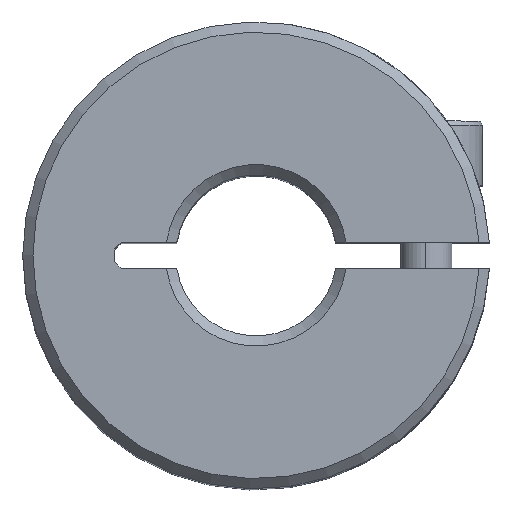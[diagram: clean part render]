
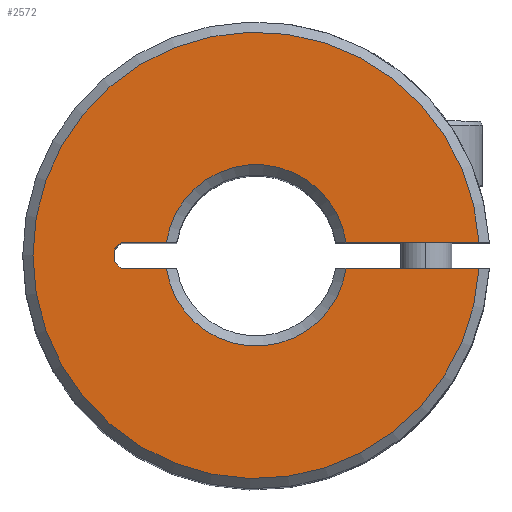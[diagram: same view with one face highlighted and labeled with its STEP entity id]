
A CAD part, top view. The second image highlights one B-rep face of the part: STEP entity #2572.
In plain terms, the highlighted planar face has unit normal (0, 0, 1).
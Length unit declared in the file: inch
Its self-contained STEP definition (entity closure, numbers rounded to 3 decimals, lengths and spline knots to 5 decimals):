
#594=DIRECTION('',(-0.707,0.707,0.));
#595=VECTOR('',#594,0.0221);
#596=CARTESIAN_POINT('',(-0.33024,-0.03125,0.88583));
#597=LINE('',#596,#595);
#598=DIRECTION('',(-1.,0.,0.));
#599=VECTOR('',#598,0.1106);
#600=CARTESIAN_POINT('',(-0.21964,-0.03125,0.88583));
#601=LINE('',#600,#599);
#602=CARTESIAN_POINT('',(0.,0.,0.88583));
#603=DIRECTION('',(0.,0.,-1.));
#604=DIRECTION('',(0.99,-0.141,0.));
#605=AXIS2_PLACEMENT_3D('',#602,#603,#604);
#607=DIRECTION('',(-1.,0.,0.));
#608=VECTOR('',#607,0.32533);
#609=CARTESIAN_POINT('',(0.54497,-0.03125,0.88583));
#610=LINE('',#609,#608);
#611=DIRECTION('',(1.,0.,0.));
#612=VECTOR('',#611,0.32533);
#613=CARTESIAN_POINT('',(0.21964,0.03125,0.88583));
#614=LINE('',#613,#612);
#615=CARTESIAN_POINT('',(0.,0.,0.88583));
#616=DIRECTION('',(0.,0.,-1.));
#617=DIRECTION('',(-0.99,0.141,0.));
#618=AXIS2_PLACEMENT_3D('',#615,#616,#617);
#620=DIRECTION('',(1.,0.,0.));
#621=VECTOR('',#620,0.1106);
#622=CARTESIAN_POINT('',(-0.33024,0.03125,0.88583));
#623=LINE('',#622,#621);
#624=DIRECTION('',(0.707,0.707,0.));
#625=VECTOR('',#624,0.0221);
#626=CARTESIAN_POINT('',(-0.34587,0.01563,0.88583));
#627=LINE('',#626,#625);
#628=DIRECTION('',(0.,1.,0.));
#629=VECTOR('',#628,0.03125);
#630=CARTESIAN_POINT('',(-0.34587,-0.01563,0.88583));
#631=LINE('',#630,#629);
#768=CARTESIAN_POINT('',(0.,0.,0.88583));
#769=DIRECTION('',(0.,0.,1.));
#770=DIRECTION('',(0.998,0.057,0.));
#771=AXIS2_PLACEMENT_3D('',#768,#769,#770);
#1870=CARTESIAN_POINT('',(-0.33024,-0.03125,0.88583));
#1871=CARTESIAN_POINT('',(-0.34587,-0.01563,0.88583));
#1872=VERTEX_POINT('',#1870);
#1873=VERTEX_POINT('',#1871);
#1874=CARTESIAN_POINT('',(-0.21964,-0.03125,0.88583));
#1875=VERTEX_POINT('',#1874);
#1876=CARTESIAN_POINT('',(0.21964,-0.03125,0.88583));
#1877=VERTEX_POINT('',#1876);
#1878=CARTESIAN_POINT('',(0.54497,-0.03125,0.88583));
#1879=VERTEX_POINT('',#1878);
#1880=CARTESIAN_POINT('',(0.21964,0.03125,0.88583));
#1881=CARTESIAN_POINT('',(0.54497,0.03125,0.88583));
#1882=VERTEX_POINT('',#1880);
#1883=VERTEX_POINT('',#1881);
#1884=CARTESIAN_POINT('',(-0.21964,0.03125,0.88583));
#1885=VERTEX_POINT('',#1884);
#1886=CARTESIAN_POINT('',(-0.33024,0.03125,0.88583));
#1887=VERTEX_POINT('',#1886);
#1888=CARTESIAN_POINT('',(-0.34587,0.01563,0.88583));
#1889=VERTEX_POINT('',#1888);
#2546=CARTESIAN_POINT('',(0.,0.,0.88583));
#2547=DIRECTION('',(0.,0.,1.));
#2548=DIRECTION('',(1.,0.,0.));
#2549=AXIS2_PLACEMENT_3D('',#2546,#2547,#2548);
#2550=PLANE('',#2549);
#2552=ORIENTED_EDGE('',*,*,#2551,.F.);
#2554=ORIENTED_EDGE('',*,*,#2553,.F.);
#2556=ORIENTED_EDGE('',*,*,#2555,.F.);
#2558=ORIENTED_EDGE('',*,*,#2557,.F.);
#2560=ORIENTED_EDGE('',*,*,#2559,.F.);
#2562=ORIENTED_EDGE('',*,*,#2561,.F.);
#2564=ORIENTED_EDGE('',*,*,#2563,.F.);
#2565=ORIENTED_EDGE('',*,*,#2525,.F.);
#2567=ORIENTED_EDGE('',*,*,#2566,.F.);
#2569=ORIENTED_EDGE('',*,*,#2568,.F.);
#2570=EDGE_LOOP('',(#2552,#2554,#2556,#2558,#2560,#2562,#2564,#2565,#2567,
#2569));
#2571=FACE_OUTER_BOUND('',#2570,.F.);
#606=CIRCLE('',#605,0.22185);
#619=CIRCLE('',#618,0.22185);
#772=CIRCLE('',#771,0.54587);
#2525=EDGE_CURVE('',#1887,#1885,#623,.T.);
#2551=EDGE_CURVE('',#1872,#1873,#597,.T.);
#2553=EDGE_CURVE('',#1875,#1872,#601,.T.);
#2555=EDGE_CURVE('',#1877,#1875,#606,.T.);
#2557=EDGE_CURVE('',#1879,#1877,#610,.T.);
#2559=EDGE_CURVE('',#1883,#1879,#772,.T.);
#2561=EDGE_CURVE('',#1882,#1883,#614,.T.);
#2563=EDGE_CURVE('',#1885,#1882,#619,.T.);
#2566=EDGE_CURVE('',#1889,#1887,#627,.T.);
#2568=EDGE_CURVE('',#1873,#1889,#631,.T.);
#2572=ADVANCED_FACE('',(#2571),#2550,.T.);
